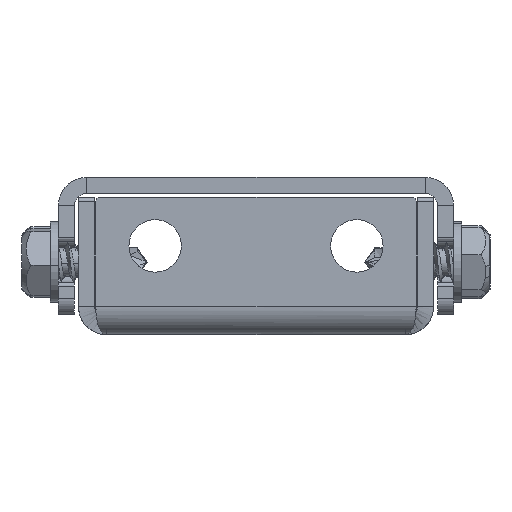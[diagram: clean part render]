
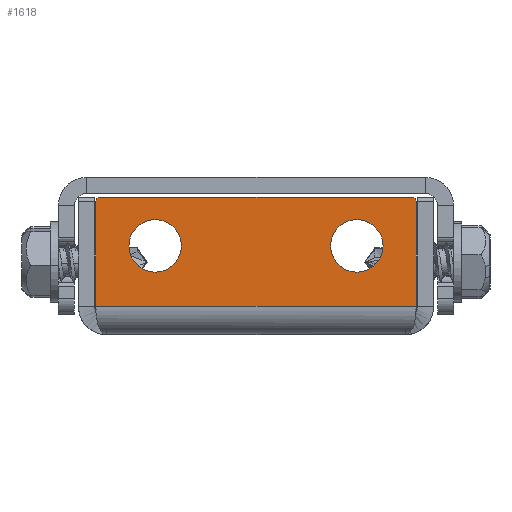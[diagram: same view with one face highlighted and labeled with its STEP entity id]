
A CAD part, left-side view. The second image highlights one B-rep face of the part: STEP entity #1618.
In plain terms, the highlighted planar face has unit normal (-1, 0, 0).
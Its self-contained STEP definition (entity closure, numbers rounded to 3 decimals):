
#360 = AXIS2_PLACEMENT_3D ( 'NONE', #17356, #52866, #45261 ) ;
#557 = PLANE ( 'NONE',  #26827 ) ;
#604 = CIRCLE ( 'NONE', #15499, 0.5 ) ;
#1039 = DIRECTION ( 'NONE',  ( 0., 0., -1. ) ) ;
#1476 = VERTEX_POINT ( 'NONE', #34898 ) ;
#1618 = ADVANCED_FACE ( 'NONE', ( #45914, #23833, #50018 ), #557, .F. ) ;
#1635 = AXIS2_PLACEMENT_3D ( 'NONE', #28033, #24825, #2118 ) ;
#2118 = DIRECTION ( 'NONE',  ( 0., 0., -1. ) ) ;
#3651 = VERTEX_POINT ( 'NONE', #56320 ) ;
#4608 = CIRCLE ( 'NONE', #24148, 3.25 ) ;
#5494 = DIRECTION ( 'NONE',  ( 1., 0., 0. ) ) ;
#5733 = CARTESIAN_POINT ( 'NONE',  ( -26., -19.859, -16.5 ) ) ;
#6141 = CARTESIAN_POINT ( 'NONE',  ( -26., -19.359, -16.5 ) ) ;
#7140 = VERTEX_POINT ( 'NONE', #56787 ) ;
#9011 = CARTESIAN_POINT ( 'NONE',  ( -26., -12.5, -7.75 ) ) ;
#9114 = EDGE_CURVE ( 'NONE', #42057, #1476, #11567, .T. ) ;
#9230 = CARTESIAN_POINT ( 'NONE',  ( -26., 12.5, -7.75 ) ) ;
#10210 = DIRECTION ( 'NONE',  ( 0., 0., -1. ) ) ;
#10263 = VECTOR ( 'NONE', #44874, 1000. ) ;
#11567 = CIRCLE ( 'NONE', #1635, 3.25 ) ;
#11795 = EDGE_LOOP ( 'NONE', ( #44087, #33763 ) ) ;
#12067 = EDGE_CURVE ( 'NONE', #32665, #21274, #47747, .T. ) ;
#12214 = DIRECTION ( 'NONE',  ( -1., 0., 0. ) ) ;
#13123 = CARTESIAN_POINT ( 'NONE',  ( -26., -12.5, -11. ) ) ;
#13137 = DIRECTION ( 'NONE',  ( 0., -1., 0. ) ) ;
#13576 = LINE ( 'NONE', #40630, #20164 ) ;
#13906 = ORIENTED_EDGE ( 'NONE', *, *, #14267, .T. ) ;
#14267 = EDGE_CURVE ( 'NONE', #3651, #42505, #54461, .T. ) ;
#14911 = ORIENTED_EDGE ( 'NONE', *, *, #31976, .F. ) ;
#15499 = AXIS2_PLACEMENT_3D ( 'NONE', #50217, #24601, #1039 ) ;
#15707 = EDGE_CURVE ( 'NONE', #7140, #34874, #39526, .T. ) ;
#16169 = ORIENTED_EDGE ( 'NONE', *, *, #15707, .T. ) ;
#17356 = CARTESIAN_POINT ( 'NONE',  ( -26., -12.5, -11. ) ) ;
#17799 = DIRECTION ( 'NONE',  ( 0., 0., -1. ) ) ;
#18505 = EDGE_CURVE ( 'NONE', #19607, #7140, #19227, .T. ) ;
#18531 = EDGE_LOOP ( 'NONE', ( #33117, #30583 ) ) ;
#18819 = EDGE_CURVE ( 'NONE', #1476, #42057, #19176, .T. ) ;
#19176 = CIRCLE ( 'NONE', #51704, 3.25 ) ;
#19227 = LINE ( 'NONE', #36964, #28483 ) ;
#19607 = VERTEX_POINT ( 'NONE', #46143 ) ;
#20164 = VECTOR ( 'NONE', #31898, 1000. ) ;
#21274 = VERTEX_POINT ( 'NONE', #54240 ) ;
#21415 = CARTESIAN_POINT ( 'NONE',  ( -26., -19.859, -3.5 ) ) ;
#22427 = VERTEX_POINT ( 'NONE', #21415 ) ;
#23833 = FACE_BOUND ( 'NONE', #11795, .T. ) ;
#24148 = AXIS2_PLACEMENT_3D ( 'NONE', #13123, #30870, #56781 ) ;
#24601 = DIRECTION ( 'NONE',  ( -1., 0., 0. ) ) ;
#24825 = DIRECTION ( 'NONE',  ( 1., 0., 0. ) ) ;
#26743 = EDGE_CURVE ( 'NONE', #42505, #19607, #604, .T. ) ;
#26827 = AXIS2_PLACEMENT_3D ( 'NONE', #36608, #5494, #37215 ) ;
#27697 = ORIENTED_EDGE ( 'NONE', *, *, #26743, .T. ) ;
#28033 = CARTESIAN_POINT ( 'NONE',  ( -26., 12.5, -11. ) ) ;
#28231 = CARTESIAN_POINT ( 'NONE',  ( -26., 12.5, -11. ) ) ;
#28483 = VECTOR ( 'NONE', #13137, 1000. ) ;
#28988 = EDGE_LOOP ( 'NONE', ( #54218, #16169, #14911, #48504, #13906, #27697 ) ) ;
#30583 = ORIENTED_EDGE ( 'NONE', *, *, #12067, .T. ) ;
#30870 = DIRECTION ( 'NONE',  ( 1., 0., 0. ) ) ;
#31898 = DIRECTION ( 'NONE',  ( 0., 0., -1. ) ) ;
#31976 = EDGE_CURVE ( 'NONE', #22427, #34874, #13576, .T. ) ;
#32665 = VERTEX_POINT ( 'NONE', #9011 ) ;
#33117 = ORIENTED_EDGE ( 'NONE', *, *, #35950, .T. ) ;
#33763 = ORIENTED_EDGE ( 'NONE', *, *, #9114, .T. ) ;
#34868 = AXIS2_PLACEMENT_3D ( 'NONE', #6141, #12214, #42492 ) ;
#34874 = VERTEX_POINT ( 'NONE', #5733 ) ;
#34898 = CARTESIAN_POINT ( 'NONE',  ( -26., 12.5, -14.25 ) ) ;
#35459 = EDGE_CURVE ( 'NONE', #3651, #22427, #44013, .T. ) ;
#35950 = EDGE_CURVE ( 'NONE', #21274, #32665, #4608, .T. ) ;
#36608 = CARTESIAN_POINT ( 'NONE',  ( -26., 0., 0. ) ) ;
#36964 = CARTESIAN_POINT ( 'NONE',  ( -26., 0., -17. ) ) ;
#37215 = DIRECTION ( 'NONE',  ( 0., 0., -1. ) ) ;
#39526 = CIRCLE ( 'NONE', #34868, 0.5 ) ;
#40630 = CARTESIAN_POINT ( 'NONE',  ( -26., -19.859, -3.5 ) ) ;
#41333 = DIRECTION ( 'NONE',  ( 1., 0., 0. ) ) ;
#42057 = VERTEX_POINT ( 'NONE', #9230 ) ;
#42492 = DIRECTION ( 'NONE',  ( 0., 0., -1. ) ) ;
#42505 = VERTEX_POINT ( 'NONE', #57180 ) ;
#44013 = LINE ( 'NONE', #44608, #10263 ) ;
#44087 = ORIENTED_EDGE ( 'NONE', *, *, #18819, .T. ) ;
#44608 = CARTESIAN_POINT ( 'NONE',  ( -26., -18.5, -3.5 ) ) ;
#44874 = DIRECTION ( 'NONE',  ( 0., -1., 0. ) ) ;
#45261 = DIRECTION ( 'NONE',  ( 0., 0., -1. ) ) ;
#45425 = CARTESIAN_POINT ( 'NONE',  ( -26., 19.859, -3.5 ) ) ;
#45914 = FACE_BOUND ( 'NONE', #18531, .T. ) ;
#46143 = CARTESIAN_POINT ( 'NONE',  ( -26., 19.359, -17. ) ) ;
#47747 = CIRCLE ( 'NONE', #360, 3.25 ) ;
#48504 = ORIENTED_EDGE ( 'NONE', *, *, #35459, .F. ) ;
#50018 = FACE_OUTER_BOUND ( 'NONE', #28988, .T. ) ;
#50217 = CARTESIAN_POINT ( 'NONE',  ( -26., 19.359, -16.5 ) ) ;
#51704 = AXIS2_PLACEMENT_3D ( 'NONE', #28231, #41333, #10210 ) ;
#52866 = DIRECTION ( 'NONE',  ( 1., 0., 0. ) ) ;
#53502 = VECTOR ( 'NONE', #17799, 1000. ) ;
#54218 = ORIENTED_EDGE ( 'NONE', *, *, #18505, .T. ) ;
#54240 = CARTESIAN_POINT ( 'NONE',  ( -26., -12.5, -14.25 ) ) ;
#54461 = LINE ( 'NONE', #45425, #53502 ) ;
#56320 = CARTESIAN_POINT ( 'NONE',  ( -26., 19.859, -3.5 ) ) ;
#56781 = DIRECTION ( 'NONE',  ( 0., 0., -1. ) ) ;
#56787 = CARTESIAN_POINT ( 'NONE',  ( -26., -19.359, -17. ) ) ;
#57180 = CARTESIAN_POINT ( 'NONE',  ( -26., 19.859, -16.5 ) ) ;
